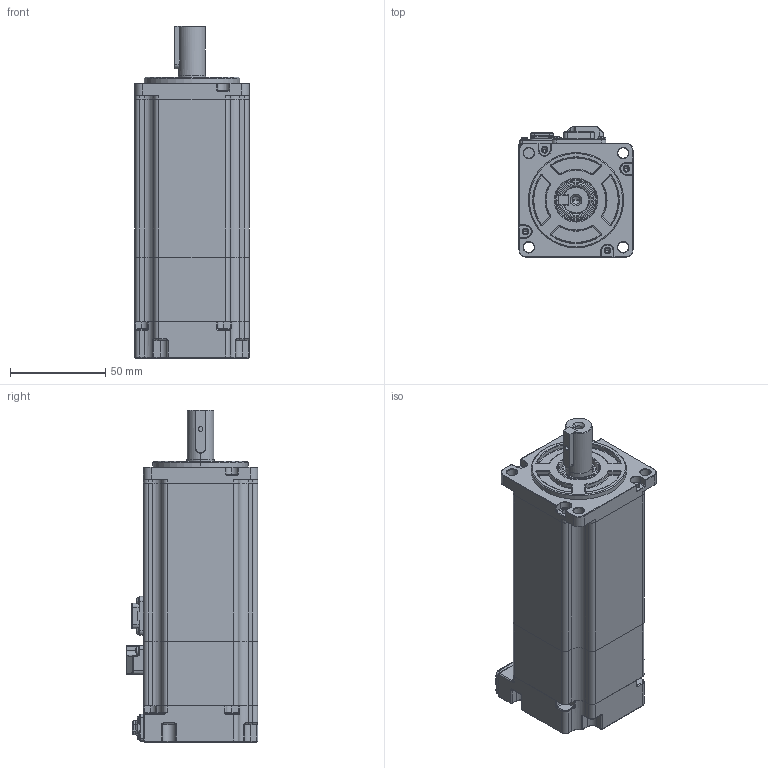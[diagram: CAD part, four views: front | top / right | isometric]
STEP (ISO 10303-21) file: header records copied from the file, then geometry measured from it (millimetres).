
FILE_DESCRIPTION (( 'STEP AP214' ), '1' );
FILE_NAME ('V7E-L06A-R6030-D2.STEP', '2021-08-09T03:04:44', ( '' ), ( '' ), 'SwSTEP 2.0', 'SolidWorks 2014', '' );
FILE_SCHEMA (( 'AUTOMOTIVE_DESIGN' ));
Length unit declared in the file: millimetre
Products named in the file (12): 60-80蚳蚚雄薯脣釱-sc-mc6p-ac-goubanchazuo; 綴傷裔E06B102HB1-S; 40#价陬堤盄揤盄裔; 儂褲E06B101AA1-45; 坋趼苤攫芛ISO 7045 - M2 x 5201611; 普通型 平键   C 5x5x22.5 带M3起键螺钉孔; 蚐猾 D00B999YF2-TC 15-22-5; 晤鎢ん欶E06B106BA1; ヶ傷裔E06B102QA1; 粣芛; V7E-L06A-R6030-D2; SC40陔晤鎢ん瑤脣釱sc-mc7p-a6-zhichuxianchazuo
Assembly tree (12 placements, depth 2):
  V7E-L06A-R6030-D2
    儂褲E06B101AA1-45
    晤鎢ん欶E06B106BA1
    ヶ傷裔E06B102QA1
    蚐猾 D00B999YF2-TC 15-22-5
    粣芛
    SC40陔晤鎢ん瑤脣釱sc-mc7p-a6-zhichuxianchazuo
    60-80蚳蚚雄薯脣釱-sc-mc6p-ac-goubanchazuo
    普通型 平键   C 5x5x22.5 带M3起键螺钉孔
    綴傷裔E06B102HB1-S
    40#价陬堤盄揤盄裔
    坋趼苤攫芛ISO 7045 - M2 x 5201611  x2
Bounding box: 60 x 69 x 174.5 mm (x, y, z)
Volume: 163808.1 mm3; surface area: 98107.4 mm2
Topology: 21 solids, 21 shells, 3692 faces, 9307 edges, 5720 vertices
Faces by surface type: plane 1724, cylinder 1263, bspline 300, cone 194, torus 165, sphere 46
Entity records: 134074 total; most frequent: CARTESIAN_POINT 46382, ORIENTED_EDGE 18220, DIRECTION 17495, EDGE_CURVE 9110, AXIS2_PLACEMENT_3D 5973, VERTEX_POINT 5654, LINE 5549, VECTOR 5549
